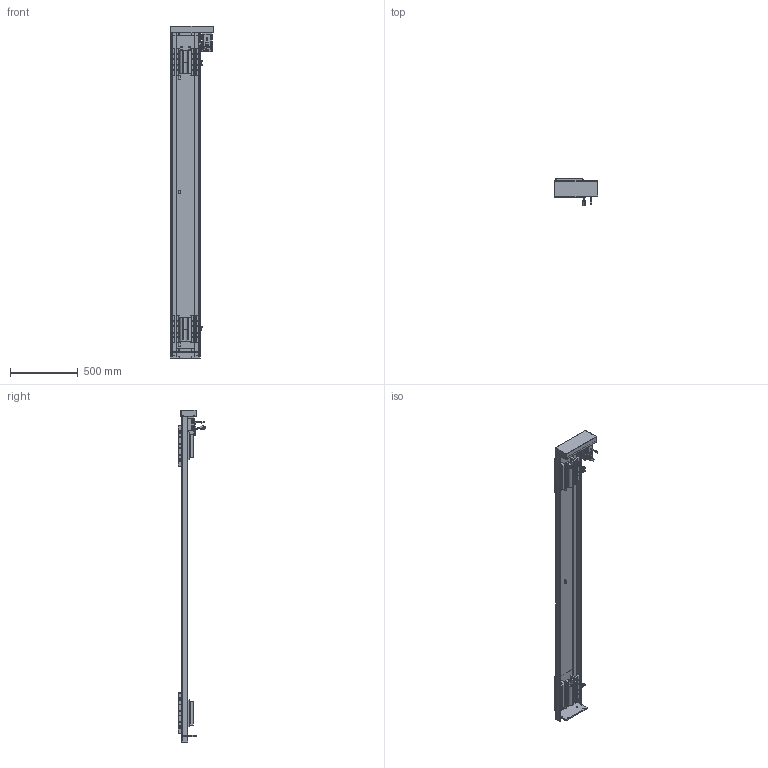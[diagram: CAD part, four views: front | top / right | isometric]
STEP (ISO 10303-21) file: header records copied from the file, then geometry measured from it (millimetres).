
FILE_DESCRIPTION (( 'STEP AP203' ), '1' );
FILE_NAME ('RY220F-L2525-800-RK-邧嶺.SLDASM_1950.step', '2022-08-06T08:20:02', ( '' ), ( '' ), 'SwSTEP 2.0', 'SolidWorks 2016', '' );
FILE_SCHEMA (( 'CONFIG_CONTROL_DESIGN' ));
Length unit declared in the file: millimetre
Products named in the file (14): 侐源滅袉蝶; RY220F-672覜茼んえ; RY220酘衵殏萇儂欶; RY220F臏賑釱25-32佪裝; 怢湛750W_ECMA-CX0807ES; RY220F-祥凄詩湍-蛌殏-800_1950; RY220F-蛌殏奻裔啣-800_1950; 覜茼ん672; RY220F-L2525-800-RK-邧嶺.SLDASM_1950; RY220F綴裔啣; 滅袉蝶18-24; RY220F-詩湍揤踡輸; RY220左右折电机安装板; RY220F-滅鳥奻裔
Assembly tree (23 placements, depth 2):
  RY220F-L2525-800-RK-邧嶺.SLDASM_1950
    RY220F-蛌殏奻裔啣-800_1950  x2
    怢湛750W_ECMA-CX0807ES
    RY220F臏賑釱25-32佪裝  x2
    RY220F-滅鳥奻裔  x2
    滅袉蝶18-24  x3
    RY220F綴裔啣
    RY220F-祥凄詩湍-蛌殏-800_1950
    RY220F-詩湍揤踡輸  x2
    覜茼ん672  x3
    RY220F-672覜茼んえ  x2
    RY220左右折电机安装板
    RY220酘衵殏萇儂欶
    侐源滅袉蝶  x2
Bounding box: 317.5 x 205.27 x 2443 mm (x, y, z)
Volume: 7954458.1 mm3; surface area: 2795282.3 mm2
Topology: 24 solids, 24 shells, 2239 faces, 6051 edges, 3780 vertices
Faces by surface type: cylinder 975, plane 914, cone 279, bspline 45, sphere 16, torus 10
Entity records: 52288 total; most frequent: CARTESIAN_POINT 15784, ORIENTED_EDGE 7404, DIRECTION 6889, EDGE_CURVE 3702, AXIS2_PLACEMENT_3D 2426, VERTEX_POINT 2396, VECTOR 2037, LINE 2037
